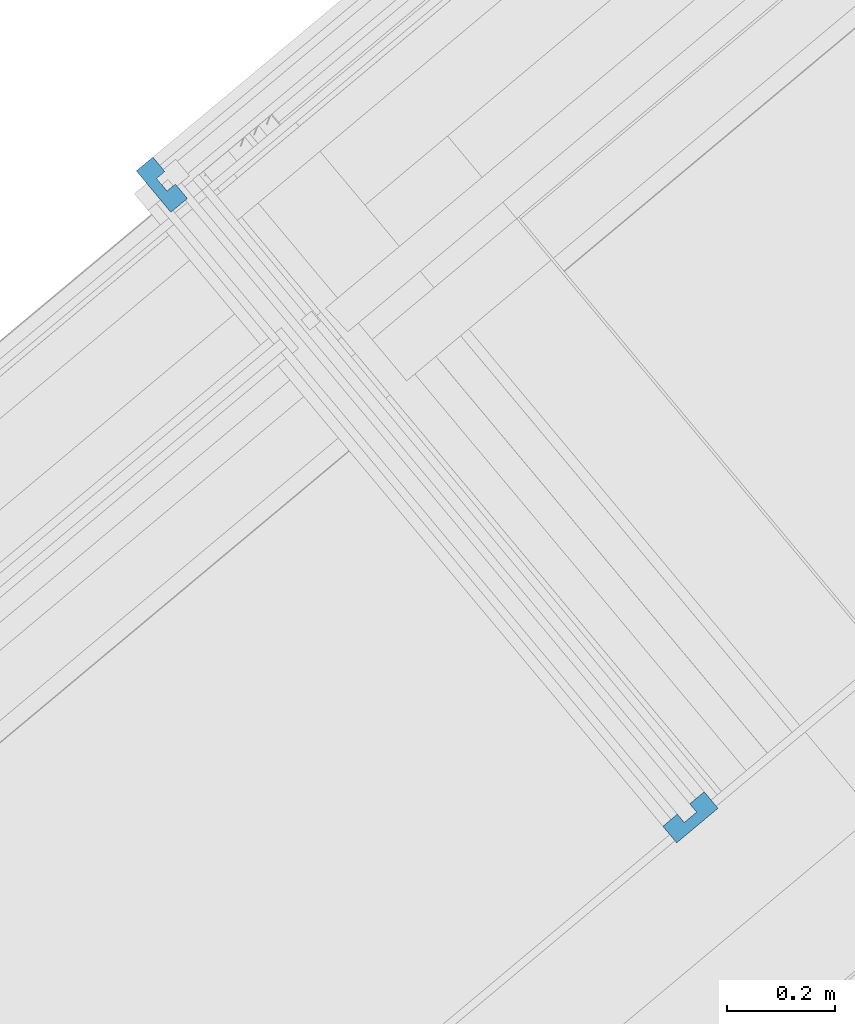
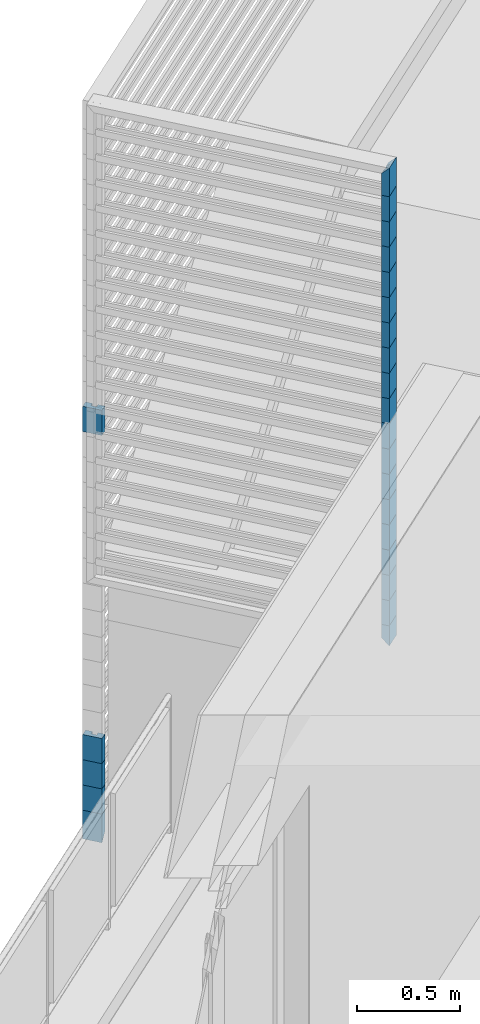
# One storey, part 40 of 50: 24 building element parts, 2 elements without a shape of their own.
"""IFC4 building model written with IfcOpenShell, lengths in metres."""

from ifc_helpers import new_model, entity, si_unit, converted_unit, derived_unit, direction, frame, origin_with_axes, place, context, subcontext, project, spatial, polygons, material, type_object, element, aggregate, save


model = new_model("IFC4")

# Units and contexts
model_context = context("Model", 3, precision=1e-05, world=origin_with_axes(), true_north=direction((0.0, 1.0)))
body_context = subcontext(model_context, "Body", "Model", "MODEL_VIEW")
ifc_project = project(units=[si_unit("LENGTHUNIT", "METRE"), si_unit("AREAUNIT", "SQUARE_METRE"), si_unit("VOLUMEUNIT", "CUBIC_METRE"), converted_unit("PLANEANGLEUNIT", "DEGREE", entity("IfcPlaneAngleMeasure", 0.0174532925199), si_unit("PLANEANGLEUNIT", "RADIAN"), dimensions=[0, 0, 0, 0, 0, 0, 0]), converted_unit("TIMEUNIT", "Year", entity("IfcTimeMeasure", 31556926.0), si_unit("TIMEUNIT", "SECOND"), dimensions=[0, 0, 1, 0, 0, 0, 0]), si_unit("MASSUNIT", "GRAM", prefix="KILO"), si_unit("THERMODYNAMICTEMPERATUREUNIT", "DEGREE_CELSIUS"), si_unit("LUMINOUSINTENSITYUNIT", "LUMEN"), si_unit("ENERGYUNIT", "JOULE", prefix="MEGA"), derived_unit("THERMALCONDUCTANCEUNIT", [(si_unit("POWERUNIT", "WATT"), 1), (si_unit("LENGTHUNIT", "METRE"), -1), (si_unit("THERMODYNAMICTEMPERATUREUNIT", "KELVIN"), -1)]), derived_unit("SPECIFICHEATCAPACITYUNIT", [(si_unit("ENERGYUNIT", "JOULE"), 1), (si_unit("MASSUNIT", "GRAM", prefix="KILO"), -1), (si_unit("THERMODYNAMICTEMPERATUREUNIT", "KELVIN"), -1)]), derived_unit("MASSDENSITYUNIT", [(si_unit("MASSUNIT", "GRAM", prefix="KILO"), 1), (si_unit("VOLUMEUNIT", "CUBIC_METRE"), -1)])], contexts=[model_context])

# Site, building, storey, space
site_placement = place(None, frame((-0.00153261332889, -0.00661245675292, 0.0), z_axis=(0.0, 0.0, 1.0), x_axis=(1.0, 0.0, 0.0)))
site = spatial("IfcSite", under=ifc_project, at=site_placement, Name="Gelände", CompositionType="ELEMENT")
building_placement = place(site_placement, origin_with_axes())
building = spatial("IfcBuilding", under=site, at=building_placement, Name="Gebäude", CompositionType="ELEMENT")
storey_placement = place(building_placement, frame((0.0, 0.0, 8.66), z_axis=(0.0, 0.0, 1.0), x_axis=(1.0, 0.0, 0.0)))
storey = spatial("IfcBuildingStorey", under=building, at=storey_placement, Name="DG2", CompositionType="ELEMENT", Elevation=8.66)
space_placement = place(storey_placement, frame((-4.06558748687, 22.1637970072, 0.22), z_axis=(0.0, 0.0, 1.0), x_axis=(-0.767365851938, -0.641209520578, 0.0)))
space = spatial("IfcSpace", under=storey, at=space_placement, CompositionType="ELEMENT", PredefinedType="NOTDEFINED")

# Curtain wall, building element parts
curtain_wall_type = type_object("IfcCurtainWallType", Name="Fassadentyp", PredefinedType="NOTDEFINED")
curtain_wall_1_placement = place(space_placement, frame((-1.95298492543, -0.601365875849, 0.1), z_axis=(0.0, 0.0, 1.0), x_axis=(-0.767365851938, 0.641209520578, 0.0)))
curtain_wall_1 = element("IfcCurtainWall", 1, at=curtain_wall_1_placement, inside=space, type_object=curtain_wall_type, Name="Fassade-001", PredefinedType="NOTDEFINED")
ifc_material = material(Name="Blech")
building_element_part_1_placement = place(curtain_wall_1_placement, origin_with_axes())
building_element_part_1 = element("IfcBuildingElementPart", 2, at=building_element_part_1_placement, material=ifc_material, Name="Blech", PredefinedType="NOTDEFINED", context=body_context, shape_type="Tessellation", body=[
    polygons([(-1.52830488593, -1.29478343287, 0.15), (-1.54752517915, -1.27174910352, 0.15), (-1.53216895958, -1.25893557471, 0.15), (-1.554592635, -1.23206219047, 0.15), (-1.58530507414, -1.25768924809, 0.15), (-1.52123743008, -1.33447034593, 0.15), (-1.49052499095, -1.3088432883, 0.15), (-1.51294866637, -1.28196990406, 0.15), (-1.52830488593, -1.29478343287, 0.0), (-1.54752517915, -1.27174910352, 0.0), (-1.53216895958, -1.25893557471, 0.02), (-1.554592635, -1.23206219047, 0.02), (-1.58530507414, -1.25768924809, -0.02), (-1.52123743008, -1.33447034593, -0.02), (-1.49052499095, -1.3088432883, 0.02), (-1.51294866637, -1.28196990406, 0.02)], [[[1, 2, 3, 4, 5, 6, 7, 8]], [[2, 1, 9, 10]], [[11, 3, 2, 10]], [[3, 11, 12, 4]], [[5, 4, 12, 13]], [[6, 5, 13, 14]], [[7, 6, 14, 15]], [[16, 8, 7, 15]], [[1, 8, 16, 9]], [[9, 16, 15, 14, 13, 12, 11, 10]]], closed=True),
])
building_element_part_2_placement = place(curtain_wall_1_placement, origin_with_axes())
building_element_part_2 = element("IfcBuildingElementPart", 3, at=building_element_part_2_placement, material=ifc_material, Name="Blech", PredefinedType="NOTDEFINED", context=body_context, shape_type="Tessellation", body=[
    polygons([(-1.52830488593, -1.29478343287, 0.3), (-1.54752517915, -1.27174910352, 0.3), (-1.53216895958, -1.25893557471, 0.3), (-1.554592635, -1.23206219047, 0.3), (-1.58530507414, -1.25768924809, 0.3), (-1.52123743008, -1.33447034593, 0.3), (-1.49052499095, -1.3088432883, 0.3), (-1.51294866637, -1.28196990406, 0.3), (-1.52830488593, -1.29478343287, 0.15), (-1.54752517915, -1.27174910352, 0.15), (-1.53216895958, -1.25893557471, 0.15), (-1.554592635, -1.23206219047, 0.15), (-1.58530507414, -1.25768924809, 0.15), (-1.52123743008, -1.33447034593, 0.15), (-1.49052499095, -1.3088432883, 0.15), (-1.51294866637, -1.28196990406, 0.15)], [[[1, 2, 3, 4, 5, 6, 7, 8]], [[2, 1, 9, 10]], [[11, 3, 2, 10]], [[3, 11, 12, 4]], [[13, 5, 4, 12]], [[14, 6, 5, 13]], [[15, 7, 6, 14]], [[16, 8, 7, 15]], [[1, 8, 16, 9]], [[9, 16, 15, 14, 13, 12, 11, 10]]], closed=True),
])
building_element_part_3_placement = place(curtain_wall_1_placement, origin_with_axes())
building_element_part_3 = element("IfcBuildingElementPart", 4, at=building_element_part_3_placement, material=ifc_material, Name="Blech", PredefinedType="NOTDEFINED", context=body_context, shape_type="Tessellation", body=[
    polygons([(-1.52830488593, -1.29478343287, 2.55), (-1.54752517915, -1.27174910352, 2.55), (-1.53216895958, -1.25893557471, 2.55), (-1.554592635, -1.23206219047, 2.55), (-1.58530507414, -1.25768924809, 2.55), (-1.52123743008, -1.33447034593, 2.55), (-1.49052499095, -1.3088432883, 2.55), (-1.51294866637, -1.28196990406, 2.55), (-1.52830488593, -1.29478343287, 2.4), (-1.54752517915, -1.27174910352, 2.4), (-1.53216895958, -1.25893557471, 2.4), (-1.554592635, -1.23206219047, 2.4), (-1.58530507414, -1.25768924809, 2.4), (-1.52123743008, -1.33447034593, 2.4), (-1.49052499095, -1.3088432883, 2.4), (-1.51294866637, -1.28196990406, 2.4)], [[[1, 2, 3, 4, 5, 6, 7, 8]], [[2, 1, 9, 10]], [[11, 3, 2, 10]], [[3, 11, 12, 4]], [[13, 5, 4, 12]], [[14, 6, 5, 13]], [[15, 7, 6, 14]], [[16, 8, 7, 15]], [[1, 8, 16, 9]], [[9, 16, 15, 14, 13, 12, 11, 10]]], closed=True),
])
building_element_part_4_placement = place(curtain_wall_1_placement, origin_with_axes())
building_element_part_4 = element("IfcBuildingElementPart", 5, at=building_element_part_4_placement, material=ifc_material, Name="Blech", PredefinedType="NOTDEFINED", context=body_context, shape_type="Tessellation", body=[
    polygons([(-1.52830488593, -1.29478343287, 0.45), (-1.54752517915, -1.27174910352, 0.45), (-1.53216895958, -1.25893557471, 0.45), (-1.554592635, -1.23206219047, 0.45), (-1.58530507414, -1.25768924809, 0.45), (-1.52123743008, -1.33447034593, 0.45), (-1.49052499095, -1.3088432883, 0.45), (-1.51294866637, -1.28196990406, 0.45), (-1.52830488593, -1.29478343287, 0.3), (-1.54752517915, -1.27174910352, 0.3), (-1.53216895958, -1.25893557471, 0.3), (-1.554592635, -1.23206219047, 0.3), (-1.58530507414, -1.25768924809, 0.3), (-1.52123743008, -1.33447034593, 0.3), (-1.49052499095, -1.3088432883, 0.3), (-1.51294866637, -1.28196990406, 0.3)], [[[1, 2, 3, 4, 5, 6, 7, 8]], [[2, 1, 9, 10]], [[11, 3, 2, 10]], [[3, 11, 12, 4]], [[13, 5, 4, 12]], [[14, 6, 5, 13]], [[15, 7, 6, 14]], [[16, 8, 7, 15]], [[1, 8, 16, 9]], [[9, 16, 15, 14, 13, 12, 11, 10]]], closed=True),
])
building_element_part_5_placement = place(curtain_wall_1_placement, origin_with_axes())
building_element_part_5 = element("IfcBuildingElementPart", 6, at=building_element_part_5_placement, material=ifc_material, Name="Blech", PredefinedType="NOTDEFINED", context=body_context, shape_type="Tessellation", body=[
    polygons([(-1.52830488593, -1.29478343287, 0.6), (-1.54752517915, -1.27174910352, 0.6), (-1.53216895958, -1.25893557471, 0.6), (-1.554592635, -1.23206219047, 0.6), (-1.58530507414, -1.25768924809, 0.6), (-1.52123743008, -1.33447034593, 0.6), (-1.49052499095, -1.3088432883, 0.6), (-1.51294866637, -1.28196990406, 0.6), (-1.52830488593, -1.29478343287, 0.45), (-1.54752517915, -1.27174910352, 0.45), (-1.53216895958, -1.25893557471, 0.45), (-1.554592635, -1.23206219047, 0.45), (-1.58530507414, -1.25768924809, 0.45), (-1.52123743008, -1.33447034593, 0.45), (-1.49052499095, -1.3088432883, 0.45), (-1.51294866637, -1.28196990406, 0.45)], [[[1, 2, 3, 4, 5, 6, 7, 8]], [[2, 1, 9, 10]], [[11, 3, 2, 10]], [[3, 11, 12, 4]], [[13, 5, 4, 12]], [[14, 6, 5, 13]], [[15, 7, 6, 14]], [[16, 8, 7, 15]], [[1, 8, 16, 9]], [[9, 16, 15, 14, 13, 12, 11, 10]]], closed=True),
])
aggregate(curtain_wall_1, [building_element_part_1, building_element_part_2, building_element_part_3, building_element_part_4, building_element_part_5])

curtain_wall_2_placement = place(space_placement, frame((0.05, 0.162364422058, 1.65), z_axis=(0.0, 0.0, 1.0), x_axis=(-0.767365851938, 0.641209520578, 0.0)))
curtain_wall_2 = element("IfcCurtainWall", 7, at=curtain_wall_2_placement, inside=space, type_object=curtain_wall_type, Name="Fassade-001", PredefinedType="NOTDEFINED")
building_element_part_6_placement = place(curtain_wall_2_placement, origin_with_axes())
building_element_part_6 = element("IfcBuildingElementPart", 8, at=building_element_part_6_placement, material=ifc_material, Name="Blech", PredefinedType="NOTDEFINED", context=body_context, shape_type="Tessellation", body=[
    polygons([(0.502113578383, -0.577509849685, 0.100000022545), (0.479092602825, -0.596746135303, 0.100000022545), (0.466268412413, -0.581398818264, 0.100000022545), (0.439410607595, -0.603841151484, 0.100000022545), (0.465058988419, -0.634535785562, 0.100000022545), (0.541795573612, -0.570414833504, 0.100000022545), (0.516147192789, -0.539720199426, 0.100000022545), (0.489289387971, -0.562162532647, 0.100000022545), (0.502113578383, -0.577509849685, 0.0), (0.479092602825, -0.596746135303, 0.0), (0.466268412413, -0.581398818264, 0.02), (0.439410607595, -0.603841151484, 0.02), (0.465058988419, -0.634535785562, -0.02), (0.541795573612, -0.570414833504, -0.02), (0.516147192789, -0.539720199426, 0.02), (0.489289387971, -0.562162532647, 0.02)], [[[1, 2, 3, 4, 5, 6, 7, 8]], [[2, 1, 9, 10]], [[11, 3, 2, 10]], [[3, 11, 12, 4]], [[5, 4, 12, 13]], [[6, 5, 13, 14]], [[7, 6, 14, 15]], [[16, 8, 7, 15]], [[1, 8, 16, 9]], [[9, 16, 15, 14, 13, 12, 11, 10]]], closed=True),
])
building_element_part_7_placement = place(curtain_wall_2_placement, origin_with_axes())
building_element_part_7 = element("IfcBuildingElementPart", 9, at=building_element_part_7_placement, material=ifc_material, Name="Blech", PredefinedType="NOTDEFINED", context=body_context, shape_type="Tessellation", body=[
    polygons([(0.502113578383, -0.577509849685, 0.250000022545), (0.479092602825, -0.596746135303, 0.250000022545), (0.466268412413, -0.581398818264, 0.250000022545), (0.439410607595, -0.603841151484, 0.250000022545), (0.465058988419, -0.634535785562, 0.250000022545), (0.541795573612, -0.570414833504, 0.250000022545), (0.516147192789, -0.539720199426, 0.250000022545), (0.489289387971, -0.562162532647, 0.250000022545), (0.502113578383, -0.577509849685, 0.100000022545), (0.479092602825, -0.596746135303, 0.100000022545), (0.466268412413, -0.581398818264, 0.100000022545), (0.439410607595, -0.603841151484, 0.100000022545), (0.465058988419, -0.634535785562, 0.100000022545), (0.541795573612, -0.570414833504, 0.100000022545), (0.516147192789, -0.539720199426, 0.100000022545), (0.489289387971, -0.562162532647, 0.100000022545)], [[[1, 2, 3, 4, 5, 6, 7, 8]], [[2, 1, 9, 10]], [[11, 3, 2, 10]], [[3, 11, 12, 4]], [[13, 5, 4, 12]], [[14, 6, 5, 13]], [[15, 7, 6, 14]], [[16, 8, 7, 15]], [[1, 8, 16, 9]], [[9, 16, 15, 14, 13, 12, 11, 10]]], closed=True),
])
building_element_part_8_placement = place(curtain_wall_2_placement, origin_with_axes())
building_element_part_8 = element("IfcBuildingElementPart", 10, at=building_element_part_8_placement, material=ifc_material, Name="Blech", PredefinedType="NOTDEFINED", context=body_context, shape_type="Tessellation", body=[
    polygons([(0.502113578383, -0.577509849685, 0.400000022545), (0.479092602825, -0.596746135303, 0.400000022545), (0.466268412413, -0.581398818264, 0.400000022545), (0.439410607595, -0.603841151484, 0.400000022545), (0.465058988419, -0.634535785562, 0.400000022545), (0.541795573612, -0.570414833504, 0.400000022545), (0.516147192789, -0.539720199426, 0.400000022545), (0.489289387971, -0.562162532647, 0.400000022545), (0.502113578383, -0.577509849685, 0.250000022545), (0.479092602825, -0.596746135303, 0.250000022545), (0.466268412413, -0.581398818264, 0.250000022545), (0.439410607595, -0.603841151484, 0.250000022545), (0.465058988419, -0.634535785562, 0.250000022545), (0.541795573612, -0.570414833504, 0.250000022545), (0.516147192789, -0.539720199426, 0.250000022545), (0.489289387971, -0.562162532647, 0.250000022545)], [[[1, 2, 3, 4, 5, 6, 7, 8]], [[2, 1, 9, 10]], [[11, 3, 2, 10]], [[3, 11, 12, 4]], [[13, 5, 4, 12]], [[14, 6, 5, 13]], [[15, 7, 6, 14]], [[16, 8, 7, 15]], [[1, 8, 16, 9]], [[9, 16, 15, 14, 13, 12, 11, 10]]], closed=True),
])
building_element_part_9_placement = place(curtain_wall_2_placement, origin_with_axes())
building_element_part_9 = element("IfcBuildingElementPart", 11, at=building_element_part_9_placement, material=ifc_material, Name="Blech", PredefinedType="NOTDEFINED", context=body_context, shape_type="Tessellation", body=[
    polygons([(0.502113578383, -0.577509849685, 0.550000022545), (0.479092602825, -0.596746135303, 0.550000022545), (0.466268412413, -0.581398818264, 0.550000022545), (0.439410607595, -0.603841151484, 0.550000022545), (0.465058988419, -0.634535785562, 0.550000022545), (0.541795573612, -0.570414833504, 0.550000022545), (0.516147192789, -0.539720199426, 0.550000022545), (0.489289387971, -0.562162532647, 0.550000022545), (0.502113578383, -0.577509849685, 0.400000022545), (0.479092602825, -0.596746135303, 0.400000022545), (0.466268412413, -0.581398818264, 0.400000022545), (0.439410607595, -0.603841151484, 0.400000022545), (0.465058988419, -0.634535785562, 0.400000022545), (0.541795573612, -0.570414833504, 0.400000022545), (0.516147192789, -0.539720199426, 0.400000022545), (0.489289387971, -0.562162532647, 0.400000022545)], [[[1, 2, 3, 4, 5, 6, 7, 8]], [[2, 1, 9, 10]], [[11, 3, 2, 10]], [[3, 11, 12, 4]], [[13, 5, 4, 12]], [[14, 6, 5, 13]], [[15, 7, 6, 14]], [[16, 8, 7, 15]], [[1, 8, 16, 9]], [[9, 16, 15, 14, 13, 12, 11, 10]]], closed=True),
])
building_element_part_10_placement = place(curtain_wall_2_placement, origin_with_axes())
building_element_part_10 = element("IfcBuildingElementPart", 12, at=building_element_part_10_placement, material=ifc_material, Name="Blech", PredefinedType="NOTDEFINED", context=body_context, shape_type="Tessellation", body=[
    polygons([(0.502113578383, -0.577509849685, 0.700000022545), (0.479092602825, -0.596746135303, 0.700000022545), (0.466268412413, -0.581398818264, 0.700000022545), (0.439410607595, -0.603841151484, 0.700000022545), (0.465058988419, -0.634535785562, 0.700000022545), (0.541795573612, -0.570414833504, 0.700000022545), (0.516147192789, -0.539720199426, 0.700000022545), (0.489289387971, -0.562162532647, 0.700000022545), (0.502113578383, -0.577509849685, 0.550000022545), (0.479092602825, -0.596746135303, 0.550000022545), (0.466268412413, -0.581398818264, 0.550000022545), (0.439410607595, -0.603841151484, 0.550000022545), (0.465058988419, -0.634535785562, 0.550000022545), (0.541795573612, -0.570414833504, 0.550000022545), (0.516147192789, -0.539720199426, 0.550000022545), (0.489289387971, -0.562162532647, 0.550000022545)], [[[1, 2, 3, 4, 5, 6, 7, 8]], [[2, 1, 9, 10]], [[11, 3, 2, 10]], [[3, 11, 12, 4]], [[13, 5, 4, 12]], [[14, 6, 5, 13]], [[15, 7, 6, 14]], [[16, 8, 7, 15]], [[1, 8, 16, 9]], [[9, 16, 15, 14, 13, 12, 11, 10]]], closed=True),
])
building_element_part_11_placement = place(curtain_wall_2_placement, origin_with_axes())
building_element_part_11 = element("IfcBuildingElementPart", 13, at=building_element_part_11_placement, material=ifc_material, Name="Blech", PredefinedType="NOTDEFINED", context=body_context, shape_type="Tessellation", body=[
    polygons([(0.502113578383, -0.577509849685, 0.850000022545), (0.479092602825, -0.596746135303, 0.850000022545), (0.466268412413, -0.581398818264, 0.850000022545), (0.439410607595, -0.603841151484, 0.850000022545), (0.465058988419, -0.634535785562, 0.850000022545), (0.541795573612, -0.570414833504, 0.850000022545), (0.516147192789, -0.539720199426, 0.850000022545), (0.489289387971, -0.562162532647, 0.850000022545), (0.502113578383, -0.577509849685, 0.700000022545), (0.479092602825, -0.596746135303, 0.700000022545), (0.466268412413, -0.581398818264, 0.700000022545), (0.439410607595, -0.603841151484, 0.700000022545), (0.465058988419, -0.634535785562, 0.700000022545), (0.541795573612, -0.570414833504, 0.700000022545), (0.516147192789, -0.539720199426, 0.700000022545), (0.489289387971, -0.562162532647, 0.700000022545)], [[[1, 2, 3, 4, 5, 6, 7, 8]], [[2, 1, 9, 10]], [[11, 3, 2, 10]], [[3, 11, 12, 4]], [[13, 5, 4, 12]], [[14, 6, 5, 13]], [[15, 7, 6, 14]], [[16, 8, 7, 15]], [[1, 8, 16, 9]], [[9, 16, 15, 14, 13, 12, 11, 10]]], closed=True),
])
building_element_part_12_placement = place(curtain_wall_2_placement, origin_with_axes())
building_element_part_12 = element("IfcBuildingElementPart", 14, at=building_element_part_12_placement, material=ifc_material, Name="Blech", PredefinedType="NOTDEFINED", context=body_context, shape_type="Tessellation", body=[
    polygons([(0.502113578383, -0.577509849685, 1.00000002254), (0.479092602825, -0.596746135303, 1.00000002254), (0.466268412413, -0.581398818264, 1.00000002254), (0.439410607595, -0.603841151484, 1.00000002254), (0.465058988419, -0.634535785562, 1.00000002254), (0.541795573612, -0.570414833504, 1.00000002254), (0.516147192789, -0.539720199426, 1.00000002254), (0.489289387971, -0.562162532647, 1.00000002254), (0.502113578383, -0.577509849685, 0.850000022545), (0.479092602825, -0.596746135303, 0.850000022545), (0.466268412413, -0.581398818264, 0.850000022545), (0.439410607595, -0.603841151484, 0.850000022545), (0.465058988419, -0.634535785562, 0.850000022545), (0.541795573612, -0.570414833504, 0.850000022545), (0.516147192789, -0.539720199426, 0.850000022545), (0.489289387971, -0.562162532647, 0.850000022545)], [[[1, 2, 3, 4, 5, 6, 7, 8]], [[2, 1, 9, 10]], [[11, 3, 2, 10]], [[3, 11, 12, 4]], [[13, 5, 4, 12]], [[14, 6, 5, 13]], [[15, 7, 6, 14]], [[16, 8, 7, 15]], [[1, 8, 16, 9]], [[9, 16, 15, 14, 13, 12, 11, 10]]], closed=True),
])
building_element_part_13_placement = place(curtain_wall_2_placement, origin_with_axes())
building_element_part_13 = element("IfcBuildingElementPart", 15, at=building_element_part_13_placement, material=ifc_material, Name="Blech", PredefinedType="NOTDEFINED", context=body_context, shape_type="Tessellation", body=[
    polygons([(0.502113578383, -0.577509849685, 1.15000002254), (0.479092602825, -0.596746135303, 1.15000002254), (0.466268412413, -0.581398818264, 1.15000002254), (0.439410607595, -0.603841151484, 1.15000002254), (0.465058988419, -0.634535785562, 1.15000002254), (0.541795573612, -0.570414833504, 1.15000002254), (0.516147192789, -0.539720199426, 1.15000002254), (0.489289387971, -0.562162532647, 1.15000002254), (0.502113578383, -0.577509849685, 1.00000002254), (0.479092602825, -0.596746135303, 1.00000002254), (0.466268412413, -0.581398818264, 1.00000002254), (0.439410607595, -0.603841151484, 1.00000002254), (0.465058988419, -0.634535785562, 1.00000002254), (0.541795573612, -0.570414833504, 1.00000002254), (0.516147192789, -0.539720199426, 1.00000002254), (0.489289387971, -0.562162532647, 1.00000002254)], [[[1, 2, 3, 4, 5, 6, 7, 8]], [[2, 1, 9, 10]], [[11, 3, 2, 10]], [[3, 11, 12, 4]], [[13, 5, 4, 12]], [[14, 6, 5, 13]], [[15, 7, 6, 14]], [[16, 8, 7, 15]], [[1, 8, 16, 9]], [[9, 16, 15, 14, 13, 12, 11, 10]]], closed=True),
])
building_element_part_14_placement = place(curtain_wall_2_placement, origin_with_axes())
building_element_part_14 = element("IfcBuildingElementPart", 16, at=building_element_part_14_placement, material=ifc_material, Name="Blech", PredefinedType="NOTDEFINED", context=body_context, shape_type="Tessellation", body=[
    polygons([(0.502113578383, -0.577509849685, 1.30000002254), (0.479092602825, -0.596746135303, 1.30000002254), (0.466268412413, -0.581398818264, 1.30000002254), (0.439410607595, -0.603841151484, 1.30000002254), (0.465058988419, -0.634535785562, 1.30000002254), (0.541795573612, -0.570414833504, 1.30000002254), (0.516147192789, -0.539720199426, 1.30000002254), (0.489289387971, -0.562162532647, 1.30000002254), (0.502113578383, -0.577509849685, 1.15000002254), (0.479092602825, -0.596746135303, 1.15000002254), (0.466268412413, -0.581398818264, 1.15000002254), (0.439410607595, -0.603841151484, 1.15000002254), (0.465058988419, -0.634535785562, 1.15000002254), (0.541795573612, -0.570414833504, 1.15000002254), (0.516147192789, -0.539720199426, 1.15000002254), (0.489289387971, -0.562162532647, 1.15000002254)], [[[1, 2, 3, 4, 5, 6, 7, 8]], [[2, 1, 9, 10]], [[11, 3, 2, 10]], [[3, 11, 12, 4]], [[13, 5, 4, 12]], [[14, 6, 5, 13]], [[15, 7, 6, 14]], [[16, 8, 7, 15]], [[1, 8, 16, 9]], [[9, 16, 15, 14, 13, 12, 11, 10]]], closed=True),
])
building_element_part_15_placement = place(curtain_wall_2_placement, origin_with_axes())
building_element_part_15 = element("IfcBuildingElementPart", 17, at=building_element_part_15_placement, material=ifc_material, Name="Blech", PredefinedType="NOTDEFINED", context=body_context, shape_type="Tessellation", body=[
    polygons([(0.502113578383, -0.577509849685, 1.45000002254), (0.479092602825, -0.596746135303, 1.45000002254), (0.466268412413, -0.581398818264, 1.45000002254), (0.439410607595, -0.603841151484, 1.45000002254), (0.465058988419, -0.634535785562, 1.45000002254), (0.541795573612, -0.570414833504, 1.45000002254), (0.516147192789, -0.539720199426, 1.45000002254), (0.489289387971, -0.562162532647, 1.45000002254), (0.502113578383, -0.577509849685, 1.30000002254), (0.479092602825, -0.596746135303, 1.30000002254), (0.466268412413, -0.581398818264, 1.30000002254), (0.439410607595, -0.603841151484, 1.30000002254), (0.465058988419, -0.634535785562, 1.30000002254), (0.541795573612, -0.570414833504, 1.30000002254), (0.516147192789, -0.539720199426, 1.30000002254), (0.489289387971, -0.562162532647, 1.30000002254)], [[[1, 2, 3, 4, 5, 6, 7, 8]], [[2, 1, 9, 10]], [[11, 3, 2, 10]], [[3, 11, 12, 4]], [[13, 5, 4, 12]], [[14, 6, 5, 13]], [[15, 7, 6, 14]], [[16, 8, 7, 15]], [[1, 8, 16, 9]], [[9, 16, 15, 14, 13, 12, 11, 10]]], closed=True),
])
building_element_part_16_placement = place(curtain_wall_2_placement, origin_with_axes())
building_element_part_16 = element("IfcBuildingElementPart", 18, at=building_element_part_16_placement, material=ifc_material, Name="Blech", PredefinedType="NOTDEFINED", context=body_context, shape_type="Tessellation", body=[
    polygons([(0.502113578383, -0.577509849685, 1.60000002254), (0.479092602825, -0.596746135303, 1.60000002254), (0.466268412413, -0.581398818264, 1.60000002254), (0.439410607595, -0.603841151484, 1.60000002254), (0.465058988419, -0.634535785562, 1.60000002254), (0.541795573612, -0.570414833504, 1.60000002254), (0.516147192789, -0.539720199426, 1.60000002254), (0.489289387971, -0.562162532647, 1.60000002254), (0.502113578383, -0.577509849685, 1.45000002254), (0.479092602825, -0.596746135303, 1.45000002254), (0.466268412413, -0.581398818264, 1.45000002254), (0.439410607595, -0.603841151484, 1.45000002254), (0.465058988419, -0.634535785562, 1.45000002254), (0.541795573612, -0.570414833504, 1.45000002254), (0.516147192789, -0.539720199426, 1.45000002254), (0.489289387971, -0.562162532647, 1.45000002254)], [[[1, 2, 3, 4, 5, 6, 7, 8]], [[2, 1, 9, 10]], [[11, 3, 2, 10]], [[3, 11, 12, 4]], [[13, 5, 4, 12]], [[14, 6, 5, 13]], [[15, 7, 6, 14]], [[16, 8, 7, 15]], [[1, 8, 16, 9]], [[9, 16, 15, 14, 13, 12, 11, 10]]], closed=True),
])
building_element_part_17_placement = place(curtain_wall_2_placement, origin_with_axes())
building_element_part_17 = element("IfcBuildingElementPart", 19, at=building_element_part_17_placement, material=ifc_material, Name="Blech", PredefinedType="NOTDEFINED", context=body_context, shape_type="Tessellation", body=[
    polygons([(0.502113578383, -0.577509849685, 1.75000002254), (0.479092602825, -0.596746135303, 1.75000002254), (0.466268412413, -0.581398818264, 1.75000002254), (0.439410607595, -0.603841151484, 1.75000002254), (0.465058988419, -0.634535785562, 1.75000002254), (0.541795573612, -0.570414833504, 1.75000002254), (0.516147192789, -0.539720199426, 1.75000002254), (0.489289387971, -0.562162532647, 1.75000002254), (0.502113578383, -0.577509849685, 1.60000002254), (0.479092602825, -0.596746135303, 1.60000002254), (0.466268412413, -0.581398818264, 1.60000002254), (0.439410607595, -0.603841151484, 1.60000002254), (0.465058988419, -0.634535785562, 1.60000002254), (0.541795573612, -0.570414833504, 1.60000002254), (0.516147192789, -0.539720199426, 1.60000002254), (0.489289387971, -0.562162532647, 1.60000002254)], [[[1, 2, 3, 4, 5, 6, 7, 8]], [[2, 1, 9, 10]], [[11, 3, 2, 10]], [[3, 11, 12, 4]], [[13, 5, 4, 12]], [[14, 6, 5, 13]], [[15, 7, 6, 14]], [[16, 8, 7, 15]], [[1, 8, 16, 9]], [[9, 16, 15, 14, 13, 12, 11, 10]]], closed=True),
])
building_element_part_18_placement = place(curtain_wall_2_placement, origin_with_axes())
building_element_part_18 = element("IfcBuildingElementPart", 20, at=building_element_part_18_placement, material=ifc_material, Name="Blech", PredefinedType="NOTDEFINED", context=body_context, shape_type="Tessellation", body=[
    polygons([(0.502113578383, -0.577509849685, 1.90000002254), (0.479092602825, -0.596746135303, 1.90000002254), (0.466268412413, -0.581398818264, 1.90000002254), (0.439410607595, -0.603841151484, 1.90000002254), (0.465058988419, -0.634535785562, 1.90000002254), (0.541795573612, -0.570414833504, 1.90000002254), (0.516147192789, -0.539720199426, 1.90000002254), (0.489289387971, -0.562162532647, 1.90000002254), (0.502113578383, -0.577509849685, 1.75000002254), (0.479092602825, -0.596746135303, 1.75000002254), (0.466268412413, -0.581398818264, 1.75000002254), (0.439410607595, -0.603841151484, 1.75000002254), (0.465058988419, -0.634535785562, 1.75000002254), (0.541795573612, -0.570414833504, 1.75000002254), (0.516147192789, -0.539720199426, 1.75000002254), (0.489289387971, -0.562162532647, 1.75000002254)], [[[1, 2, 3, 4, 5, 6, 7, 8]], [[2, 1, 9, 10]], [[11, 3, 2, 10]], [[3, 11, 12, 4]], [[13, 5, 4, 12]], [[14, 6, 5, 13]], [[15, 7, 6, 14]], [[16, 8, 7, 15]], [[1, 8, 16, 9]], [[9, 16, 15, 14, 13, 12, 11, 10]]], closed=True),
])
building_element_part_19_placement = place(curtain_wall_2_placement, origin_with_axes())
building_element_part_19 = element("IfcBuildingElementPart", 21, at=building_element_part_19_placement, material=ifc_material, Name="Blech", PredefinedType="NOTDEFINED", context=body_context, shape_type="Tessellation", body=[
    polygons([(0.502113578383, -0.577509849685, 2.05000002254), (0.479092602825, -0.596746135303, 2.05000002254), (0.466268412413, -0.581398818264, 2.05000002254), (0.439410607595, -0.603841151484, 2.05000002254), (0.465058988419, -0.634535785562, 2.05000002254), (0.541795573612, -0.570414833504, 2.05000002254), (0.516147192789, -0.539720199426, 2.05000002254), (0.489289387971, -0.562162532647, 2.05000002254), (0.502113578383, -0.577509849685, 1.90000002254), (0.479092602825, -0.596746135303, 1.90000002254), (0.466268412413, -0.581398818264, 1.90000002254), (0.439410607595, -0.603841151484, 1.90000002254), (0.465058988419, -0.634535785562, 1.90000002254), (0.541795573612, -0.570414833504, 1.90000002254), (0.516147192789, -0.539720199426, 1.90000002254), (0.489289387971, -0.562162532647, 1.90000002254)], [[[1, 2, 3, 4, 5, 6, 7, 8]], [[2, 1, 9, 10]], [[11, 3, 2, 10]], [[3, 11, 12, 4]], [[13, 5, 4, 12]], [[14, 6, 5, 13]], [[15, 7, 6, 14]], [[16, 8, 7, 15]], [[1, 8, 16, 9]], [[9, 16, 15, 14, 13, 12, 11, 10]]], closed=True),
])
building_element_part_20_placement = place(curtain_wall_2_placement, origin_with_axes())
building_element_part_20 = element("IfcBuildingElementPart", 22, at=building_element_part_20_placement, material=ifc_material, Name="Blech", PredefinedType="NOTDEFINED", context=body_context, shape_type="Tessellation", body=[
    polygons([(0.502113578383, -0.577509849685, 2.20000002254), (0.479092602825, -0.596746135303, 2.20000002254), (0.466268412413, -0.581398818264, 2.20000002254), (0.439410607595, -0.603841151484, 2.20000002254), (0.465058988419, -0.634535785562, 2.20000002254), (0.541795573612, -0.570414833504, 2.20000002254), (0.516147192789, -0.539720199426, 2.20000002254), (0.489289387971, -0.562162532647, 2.20000002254), (0.502113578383, -0.577509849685, 2.05000002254), (0.479092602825, -0.596746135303, 2.05000002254), (0.466268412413, -0.581398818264, 2.05000002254), (0.439410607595, -0.603841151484, 2.05000002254), (0.465058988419, -0.634535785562, 2.05000002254), (0.541795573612, -0.570414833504, 2.05000002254), (0.516147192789, -0.539720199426, 2.05000002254), (0.489289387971, -0.562162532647, 2.05000002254)], [[[1, 2, 3, 4, 5, 6, 7, 8]], [[2, 1, 9, 10]], [[11, 3, 2, 10]], [[3, 11, 12, 4]], [[13, 5, 4, 12]], [[14, 6, 5, 13]], [[15, 7, 6, 14]], [[16, 8, 7, 15]], [[1, 8, 16, 9]], [[9, 16, 15, 14, 13, 12, 11, 10]]], closed=True),
])
building_element_part_21_placement = place(curtain_wall_2_placement, origin_with_axes())
building_element_part_21 = element("IfcBuildingElementPart", 23, at=building_element_part_21_placement, material=ifc_material, Name="Blech", PredefinedType="NOTDEFINED", context=body_context, shape_type="Tessellation", body=[
    polygons([(0.502113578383, -0.577509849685, 2.35000002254), (0.479092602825, -0.596746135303, 2.35000002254), (0.466268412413, -0.581398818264, 2.35000002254), (0.439410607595, -0.603841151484, 2.35000002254), (0.465058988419, -0.634535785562, 2.35000002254), (0.541795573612, -0.570414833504, 2.35000002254), (0.516147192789, -0.539720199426, 2.35000002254), (0.489289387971, -0.562162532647, 2.35000002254), (0.502113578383, -0.577509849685, 2.20000002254), (0.479092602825, -0.596746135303, 2.20000002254), (0.466268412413, -0.581398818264, 2.20000002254), (0.439410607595, -0.603841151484, 2.20000002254), (0.465058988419, -0.634535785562, 2.20000002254), (0.541795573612, -0.570414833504, 2.20000002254), (0.516147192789, -0.539720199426, 2.20000002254), (0.489289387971, -0.562162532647, 2.20000002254)], [[[1, 2, 3, 4, 5, 6, 7, 8]], [[2, 1, 9, 10]], [[11, 3, 2, 10]], [[3, 11, 12, 4]], [[13, 5, 4, 12]], [[14, 6, 5, 13]], [[15, 7, 6, 14]], [[16, 8, 7, 15]], [[1, 8, 16, 9]], [[9, 16, 15, 14, 13, 12, 11, 10]]], closed=True),
])
building_element_part_22_placement = place(curtain_wall_2_placement, origin_with_axes())
building_element_part_22 = element("IfcBuildingElementPart", 24, at=building_element_part_22_placement, material=ifc_material, Name="Blech", PredefinedType="NOTDEFINED", context=body_context, shape_type="Tessellation", body=[
    polygons([(0.502113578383, -0.577509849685, 2.50000002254), (0.479092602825, -0.596746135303, 2.50000002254), (0.466268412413, -0.581398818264, 2.50000002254), (0.439410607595, -0.603841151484, 2.50000002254), (0.465058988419, -0.634535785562, 2.50000002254), (0.541795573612, -0.570414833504, 2.50000002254), (0.516147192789, -0.539720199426, 2.50000002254), (0.489289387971, -0.562162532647, 2.50000002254), (0.502113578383, -0.577509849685, 2.35000002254), (0.479092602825, -0.596746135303, 2.35000002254), (0.466268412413, -0.581398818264, 2.35000002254), (0.439410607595, -0.603841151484, 2.35000002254), (0.465058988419, -0.634535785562, 2.35000002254), (0.541795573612, -0.570414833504, 2.35000002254), (0.516147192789, -0.539720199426, 2.35000002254), (0.489289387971, -0.562162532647, 2.35000002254)], [[[1, 2, 3, 4, 5, 6, 7, 8]], [[2, 1, 9, 10]], [[11, 3, 2, 10]], [[3, 11, 12, 4]], [[13, 5, 4, 12]], [[14, 6, 5, 13]], [[15, 7, 6, 14]], [[16, 8, 7, 15]], [[1, 8, 16, 9]], [[9, 16, 15, 14, 13, 12, 11, 10]]], closed=True),
])
building_element_part_23_placement = place(curtain_wall_2_placement, origin_with_axes())
building_element_part_23 = element("IfcBuildingElementPart", 25, at=building_element_part_23_placement, material=ifc_material, Name="Blech", PredefinedType="NOTDEFINED", context=body_context, shape_type="Tessellation", body=[
    polygons([(0.502113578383, -0.577509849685, 2.65000002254), (0.479092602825, -0.596746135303, 2.65000002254), (0.466268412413, -0.581398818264, 2.65000002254), (0.439410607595, -0.603841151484, 2.65000002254), (0.465058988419, -0.634535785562, 2.65000002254), (0.541795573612, -0.570414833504, 2.65000002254), (0.516147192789, -0.539720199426, 2.65000002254), (0.489289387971, -0.562162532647, 2.65000002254), (0.502113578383, -0.577509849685, 2.50000002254), (0.479092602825, -0.596746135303, 2.50000002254), (0.466268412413, -0.581398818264, 2.50000002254), (0.439410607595, -0.603841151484, 2.50000002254), (0.465058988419, -0.634535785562, 2.50000002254), (0.541795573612, -0.570414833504, 2.50000002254), (0.516147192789, -0.539720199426, 2.50000002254), (0.489289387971, -0.562162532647, 2.50000002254)], [[[1, 2, 3, 4, 5, 6, 7, 8]], [[2, 1, 9, 10]], [[11, 3, 2, 10]], [[3, 11, 12, 4]], [[13, 5, 4, 12]], [[14, 6, 5, 13]], [[15, 7, 6, 14]], [[16, 8, 7, 15]], [[1, 8, 16, 9]], [[9, 16, 15, 14, 13, 12, 11, 10]]], closed=True),
])
building_element_part_24_placement = place(curtain_wall_2_placement, origin_with_axes())
building_element_part_24 = element("IfcBuildingElementPart", 26, at=building_element_part_24_placement, material=ifc_material, Name="Blech", PredefinedType="NOTDEFINED", context=body_context, shape_type="Tessellation", body=[
    polygons([(0.502113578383, -0.577509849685, 2.8000000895), (0.479092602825, -0.596746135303, 2.8000000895), (0.466268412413, -0.581398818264, 2.7800000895), (0.439410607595, -0.603841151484, 2.7800000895), (0.465058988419, -0.634535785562, 2.8200000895), (0.541795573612, -0.570414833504, 2.8200000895), (0.516147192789, -0.539720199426, 2.7800000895), (0.489289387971, -0.562162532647, 2.7800000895), (0.502113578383, -0.577509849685, 2.65000002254), (0.479092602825, -0.596746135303, 2.65000002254), (0.466268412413, -0.581398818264, 2.65000002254), (0.439410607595, -0.603841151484, 2.65000002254), (0.465058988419, -0.634535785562, 2.65000002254), (0.541795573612, -0.570414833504, 2.65000002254), (0.516147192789, -0.539720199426, 2.65000002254), (0.489289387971, -0.562162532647, 2.65000002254)], [[[1, 2, 3, 4, 5, 6, 7, 8]], [[2, 1, 9, 10]], [[11, 3, 2, 10]], [[3, 11, 12, 4]], [[13, 5, 4, 12]], [[14, 6, 5, 13]], [[15, 7, 6, 14]], [[16, 8, 7, 15]], [[1, 8, 16, 9]], [[9, 16, 15, 14, 13, 12, 11, 10]]], closed=True),
])
aggregate(curtain_wall_2, [building_element_part_6, building_element_part_7, building_element_part_8, building_element_part_9, building_element_part_10, building_element_part_11, building_element_part_12, building_element_part_13, building_element_part_14, building_element_part_15, building_element_part_16, building_element_part_17, building_element_part_18, building_element_part_19, building_element_part_20, building_element_part_21, building_element_part_22, building_element_part_23, building_element_part_24])

save(model, "model.ifc")
